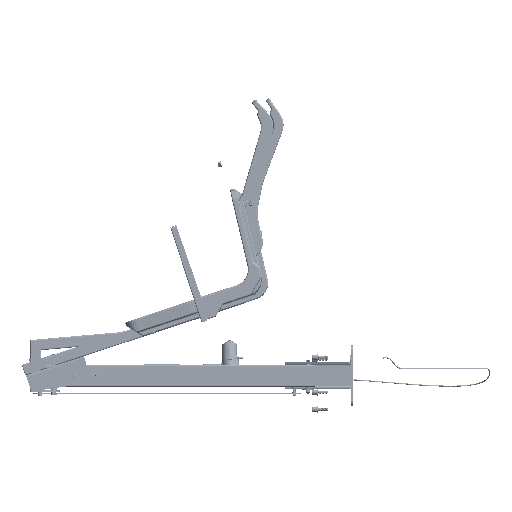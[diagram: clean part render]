
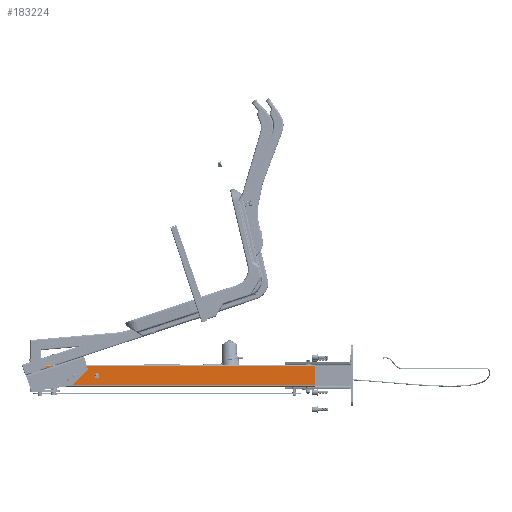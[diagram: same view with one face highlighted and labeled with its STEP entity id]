
A CAD part, left-side view. The second image highlights one B-rep face of the part: STEP entity #183224.
In plain terms, the highlighted planar face has unit normal (-1, -0.028, 0) as drawn and (0, 0, -1) by its records, which use the part's own axes.
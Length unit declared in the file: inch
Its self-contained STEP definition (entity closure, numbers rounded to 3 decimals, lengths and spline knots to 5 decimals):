
#2112 = DIRECTION ( 'NONE',  ( 0., 1., 0. ) ) ;
#23491 = CARTESIAN_POINT ( 'NONE',  ( -48.55, 1.75, -1. ) ) ;
#24841 = CARTESIAN_POINT ( 'NONE',  ( 0., 1.75, -1. ) ) ;
#25594 = CARTESIAN_POINT ( 'NONE',  ( -48.55, 1.75, -1. ) ) ;
#29007 = ORIENTED_EDGE ( 'NONE', *, *, #224244, .F. ) ;
#36650 = VERTEX_POINT ( 'NONE', #24841 ) ;
#41790 = ORIENTED_EDGE ( 'NONE', *, *, #289027, .T. ) ;
#84607 = FACE_BOUND ( 'NONE', #277772, .T. ) ;
#86116 = DIRECTION ( 'NONE',  ( 1., 0., 0. ) ) ;
#97879 = EDGE_CURVE ( 'NONE', #364722, #252001, #295722, .T. ) ;
#109520 = CARTESIAN_POINT ( 'NONE',  ( -48.55, -1.75, -1. ) ) ;
#113867 = CARTESIAN_POINT ( 'NONE',  ( -5.003, 0., -1. ) ) ;
#114889 = LINE ( 'NONE', #238463, #362222 ) ;
#122459 = PLANE ( 'NONE',  #370988 ) ;
#125927 = CARTESIAN_POINT ( 'NONE',  ( 0., -1.75, -1. ) ) ;
#129556 = VERTEX_POINT ( 'NONE', #125927 ) ;
#132539 = ORIENTED_EDGE ( 'NONE', *, *, #97879, .T. ) ;
#183224 = ADVANCED_FACE ( 'NONE', ( #468498, #84607, #314474 ), #122459, .T. ) ;
#193179 = DIRECTION ( 'NONE',  ( 0., 1., 0. ) ) ;
#195140 = DIRECTION ( 'NONE',  ( 1., 0., 0. ) ) ;
#200545 = VECTOR ( 'NONE', #195140, 39.37008 ) ;
#202670 = CIRCLE ( 'NONE', #243072, 0.19 ) ;
#204634 = DIRECTION ( 'NONE',  ( 0., 0., 1. ) ) ;
#215620 = EDGE_CURVE ( 'NONE', #129556, #36650, #461618, .T. ) ;
#217687 = ORIENTED_EDGE ( 'NONE', *, *, #374172, .T. ) ;
#224244 = EDGE_CURVE ( 'NONE', #364722, #129556, #114889, .T. ) ;
#232599 = CIRCLE ( 'NONE', #289357, 0.19 ) ;
#238463 = CARTESIAN_POINT ( 'NONE',  ( -48.55, -1.75, -1. ) ) ;
#238568 = DIRECTION ( 'NONE',  ( 0., 0., -1. ) ) ;
#243072 = AXIS2_PLACEMENT_3D ( 'NONE', #465008, #204634, #86116 ) ;
#252001 = VERTEX_POINT ( 'NONE', #23491 ) ;
#271596 = CARTESIAN_POINT ( 'NONE',  ( -48.55, 1.75, -1. ) ) ;
#277772 = EDGE_LOOP ( 'NONE', ( #443404 ) ) ;
#285951 = EDGE_LOOP ( 'NONE', ( #41790 ) ) ;
#288617 = VECTOR ( 'NONE', #485133, 39.37008 ) ;
#289027 = EDGE_CURVE ( 'NONE', #338349, #338349, #202670, .T. ) ;
#289357 = AXIS2_PLACEMENT_3D ( 'NONE', #319086, #389945, #321580 ) ;
#295722 = LINE ( 'NONE', #25594, #288617 ) ;
#314474 = FACE_OUTER_BOUND ( 'NONE', #355754, .T. ) ;
#319086 = CARTESIAN_POINT ( 'NONE',  ( -5.193, 0., -1. ) ) ;
#321580 = DIRECTION ( 'NONE',  ( 1., 0., 0. ) ) ;
#338349 = VERTEX_POINT ( 'NONE', #414152 ) ;
#355754 = EDGE_LOOP ( 'NONE', ( #426489, #29007, #132539, #217687 ) ) ;
#362222 = VECTOR ( 'NONE', #392648, 39.37008 ) ;
#364722 = VERTEX_POINT ( 'NONE', #109520 ) ;
#370988 = AXIS2_PLACEMENT_3D ( 'NONE', #271596, #238568, #193179 ) ;
#374172 = EDGE_CURVE ( 'NONE', #252001, #36650, #394678, .T. ) ;
#389945 = DIRECTION ( 'NONE',  ( 0., 0., 1. ) ) ;
#392648 = DIRECTION ( 'NONE',  ( 1., 0., 0. ) ) ;
#394678 = LINE ( 'NONE', #462944, #200545 ) ;
#399463 = VECTOR ( 'NONE', #2112, 39.37008 ) ;
#414152 = CARTESIAN_POINT ( 'NONE',  ( -9.003, 0., -1. ) ) ;
#423776 = CARTESIAN_POINT ( 'NONE',  ( 0., 1.75, -1. ) ) ;
#426489 = ORIENTED_EDGE ( 'NONE', *, *, #215620, .F. ) ;
#443404 = ORIENTED_EDGE ( 'NONE', *, *, #445571, .T. ) ;
#445571 = EDGE_CURVE ( 'NONE', #492840, #492840, #232599, .T. ) ;
#461618 = LINE ( 'NONE', #423776, #399463 ) ;
#462944 = CARTESIAN_POINT ( 'NONE',  ( -48.55, 1.75, -1. ) ) ;
#465008 = CARTESIAN_POINT ( 'NONE',  ( -9.193, 0., -1. ) ) ;
#468498 = FACE_BOUND ( 'NONE', #285951, .T. ) ;
#485133 = DIRECTION ( 'NONE',  ( 0., 1., 0. ) ) ;
#492840 = VERTEX_POINT ( 'NONE', #113867 ) ;
